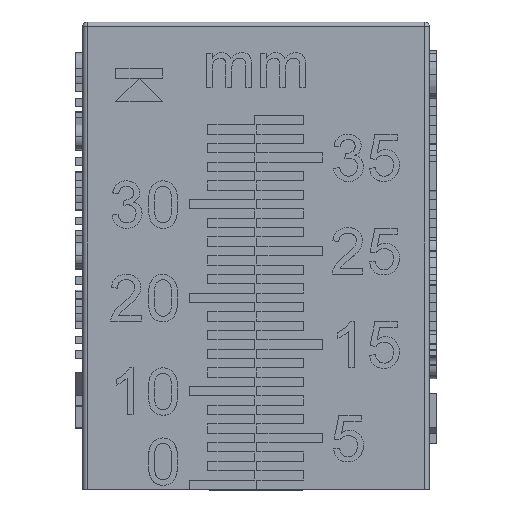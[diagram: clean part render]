
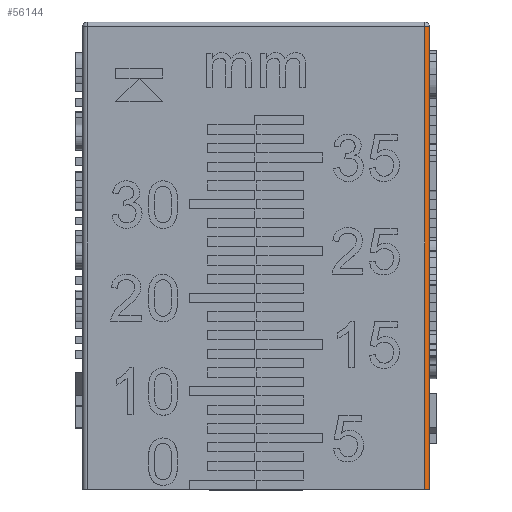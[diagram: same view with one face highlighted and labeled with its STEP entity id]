
A CAD part, top view. The second image highlights one B-rep face of the part: STEP entity #56144.
In plain terms, the highlighted cylindrical face has radius 0.5 mm (diameter 1 mm), a partial arc.
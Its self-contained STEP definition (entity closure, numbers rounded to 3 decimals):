
#3907 = VERTEX_POINT ( 'NONE', #88937 ) ;
#13185 = CARTESIAN_POINT ( 'NONE',  ( 18.049, 49.501, 18.549 ) ) ;
#13343 = VECTOR ( 'NONE', #26938, 1000. ) ;
#16485 = VERTEX_POINT ( 'NONE', #92700 ) ;
#18647 = CARTESIAN_POINT ( 'NONE',  ( 18.049, 50.001, 18.049 ) ) ;
#23295 = VECTOR ( 'NONE', #31194, 1000. ) ;
#24688 = ORIENTED_EDGE ( 'NONE', *, *, #29367, .F. ) ;
#26938 = DIRECTION ( 'NONE',  ( 0., -1., 0. ) ) ;
#28873 = DIRECTION ( 'NONE',  ( 0., 0., -1. ) ) ;
#29367 = EDGE_CURVE ( 'NONE', #41904, #16485, #84295, .T. ) ;
#31194 = DIRECTION ( 'NONE',  ( 0., 1., 0. ) ) ;
#32399 = CARTESIAN_POINT ( 'NONE',  ( 18.549, 49.501, 18.049 ) ) ;
#34501 = CYLINDRICAL_SURFACE ( 'NONE', #39159, 0.5 ) ;
#37158 = ORIENTED_EDGE ( 'NONE', *, *, #76081, .F. ) ;
#38130 = CARTESIAN_POINT ( 'NONE',  ( 18.049, 0.001, 18.049 ) ) ;
#39159 = AXIS2_PLACEMENT_3D ( 'NONE', #18647, #67799, #102742 ) ;
#41904 = VERTEX_POINT ( 'NONE', #32399 ) ;
#49770 = AXIS2_PLACEMENT_3D ( 'NONE', #87797, #55016, #71410 ) ;
#50283 = ORIENTED_EDGE ( 'NONE', *, *, #85827, .F. ) ;
#55016 = DIRECTION ( 'NONE',  ( 0., 1., 0. ) ) ;
#56144 = ADVANCED_FACE ( 'NONE', ( #84739 ), #34501, .T. ) ;
#59905 = CIRCLE ( 'NONE', #75603, 0.5 ) ;
#61908 = EDGE_CURVE ( 'NONE', #3907, #78089, #106017, .T. ) ;
#67799 = DIRECTION ( 'NONE',  ( 0., -1., 0. ) ) ;
#69955 = EDGE_LOOP ( 'NONE', ( #37158, #24688, #50283, #98102 ) ) ;
#71410 = DIRECTION ( 'NONE',  ( 0., 0., 1. ) ) ;
#75603 = AXIS2_PLACEMENT_3D ( 'NONE', #38130, #87828, #28873 ) ;
#76081 = EDGE_CURVE ( 'NONE', #16485, #3907, #59905, .T. ) ;
#78089 = VERTEX_POINT ( 'NONE', #13185 ) ;
#84295 = LINE ( 'NONE', #85912, #13343 ) ;
#84739 = FACE_OUTER_BOUND ( 'NONE', #69955, .T. ) ;
#85827 = EDGE_CURVE ( 'NONE', #78089, #41904, #105636, .T. ) ;
#85912 = CARTESIAN_POINT ( 'NONE',  ( 18.549, 50.001, 18.049 ) ) ;
#87797 = CARTESIAN_POINT ( 'NONE',  ( 18.049, 49.501, 18.049 ) ) ;
#87828 = DIRECTION ( 'NONE',  ( 0., -1., 0. ) ) ;
#88559 = CARTESIAN_POINT ( 'NONE',  ( 18.049, 50.001, 18.549 ) ) ;
#88937 = CARTESIAN_POINT ( 'NONE',  ( 18.049, 0.001, 18.549 ) ) ;
#92700 = CARTESIAN_POINT ( 'NONE',  ( 18.549, 0.001, 18.049 ) ) ;
#98102 = ORIENTED_EDGE ( 'NONE', *, *, #61908, .F. ) ;
#102742 = DIRECTION ( 'NONE',  ( 0., 0., -1. ) ) ;
#105636 = CIRCLE ( 'NONE', #49770, 0.5 ) ;
#106017 = LINE ( 'NONE', #88559, #23295 ) ;
